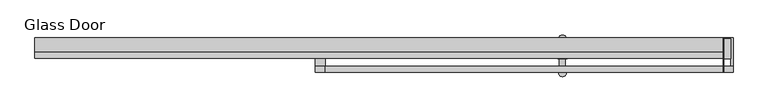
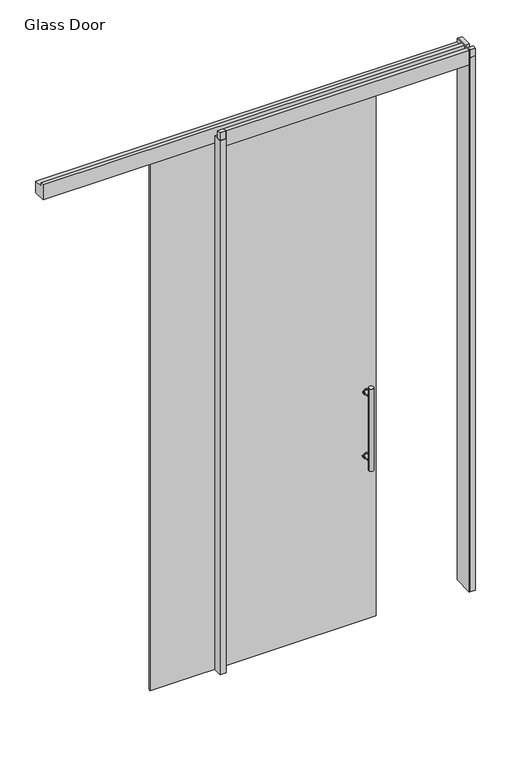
"""IFC4 building model written with IfcOpenShell, lengths in millimetres: plate geometry, Steelcase - Privacy Wall GS - Lite Scale Glazing - Door - Slider - All Glass : Glass Door."""

import ifcopenshell
import ifcopenshell.guid

model = None  # the IFC model being written
_history = None  # IfcOwnerHistory: only IFC2X3 demands one
_inside = {}  # id of a spatial element -> (the spatial element, [elements in it])
_under = {}  # id of a project, library or spatial element -> (it, [spatial elements below it])
_declared = {}  # id of a project -> (the project, [libraries it declares])
_typed = {}  # id of a type object -> (the type object, [elements of that type])
_made_of = {}  # id of a material, layer set ... -> (it, [elements and type objects made of it])


def new_model(schema):
    """Start an empty IFC model of exactly this schema.

    Asked for "IFC4X3", IfcOpenShell would pick the latest addendum, in which some entities
    have other attributes; the version numbers below select the first issue.
    IFC2X3 requires an IfcOwnerHistory on every rooted entity: one is made here for all.
    """
    global model, _history
    if schema == "IFC4X3":
        model = ifcopenshell.file(schema_version=(4, 3, 0, 0))
    else:
        model = ifcopenshell.file(schema=schema)
    _inside.clear()
    _under.clear()
    _declared.clear()
    _typed.clear()
    _made_of.clear()
    _history = None
    if model.schema == "IFC2X3":
        org = make("IfcOrganization", Name="unknown")
        user = make(
            "IfcPersonAndOrganization",
            ThePerson=make("IfcPerson", FamilyName="unknown"),
            TheOrganization=org,
        )
        app = make(
            "IfcApplication",
            ApplicationDeveloper=org,
            Version="unknown",
            ApplicationFullName="unknown",
            ApplicationIdentifier="unknown",
        )
        _history = make(
            "IfcOwnerHistory",
            OwningUser=user,
            OwningApplication=app,
            ChangeAction="ADDED",
            CreationDate=0,
        )
    return model


def make(cls, **values):
    """One entity of the class cls with the attributes given. An attribute that is None is left unset."""
    return model.create_entity(
        cls, **{name: value for name, value in values.items() if value is not None}
    )


def rooted(cls, **values):
    """An entity with a GlobalId (a new one), such as an element, a storey or a relation."""
    return make(cls, GlobalId=ifcopenshell.guid.new(), OwnerHistory=_history, **values)


def si_unit(unit_type, name, prefix=None):
    """IfcSIUnit, for example si_unit("LENGTHUNIT", "METRE", prefix="MILLI")."""
    return make("IfcSIUnit", UnitType=unit_type, Prefix=prefix, Name=name)


def assignment(units):
    """IfcUnitAssignment: the units of a project."""
    return None if units is None else make("IfcUnitAssignment", Units=units)


def point(xyz):
    """IfcCartesianPoint."""
    return None if xyz is None else make("IfcCartesianPoint", Coordinates=xyz)


def direction(xyz):
    """IfcDirection."""
    return None if xyz is None else make("IfcDirection", DirectionRatios=xyz)


def frame(location, z_axis=None, x_axis=None):
    """IfcAxis2Placement3D, a coordinate frame: its origin and axes. An axis left out is left unset."""
    return make(
        "IfcAxis2Placement3D",
        Location=point(location),
        Axis=direction(z_axis),
        RefDirection=direction(x_axis),
    )


def frame_2d(location, x_axis=None):
    """IfcAxis2Placement2D, a coordinate frame in the plane: its origin and x axis."""
    return make(
        "IfcAxis2Placement2D", Location=point(location), RefDirection=direction(x_axis)
    )


def origin():
    """The frame at (0, 0, 0) with its axes left unset."""
    return frame((0.0, 0.0, 0.0))


def origin_with_axes():
    """The frame at (0, 0, 0) with the z axis (0, 0, 1) and the x axis (1, 0, 0) written out."""
    return frame((0.0, 0.0, 0.0), z_axis=(0.0, 0.0, 1.0), x_axis=(1.0, 0.0, 0.0))


def place(relative_to, where):
    """IfcLocalPlacement: puts the frame where relative to a parent placement (None: the world)."""
    return make(
        "IfcLocalPlacement", PlacementRelTo=relative_to, RelativePlacement=where
    )


def context(
    kind, dimensions, precision=None, world=None, true_north=None, identifier=None
):
    """IfcGeometricRepresentationContext, for example the 3D "Model" context."""
    return make(
        "IfcGeometricRepresentationContext",
        ContextIdentifier=identifier,
        ContextType=kind,
        CoordinateSpaceDimension=dimensions,
        Precision=precision,
        WorldCoordinateSystem=world,
        TrueNorth=true_north,
    )


def project(units=None, contexts=None):
    """IfcProject with its units and contexts."""
    return rooted(
        "IfcProject",
        Name="project",
        RepresentationContexts=contexts,
        UnitsInContext=assignment(units),
    )


def spatial(cls, under=None, at=None, **own):
    """A site, building, storey or space (cls), placed at a placement, below another one or the project."""
    s = rooted(cls, ObjectPlacement=at, **own)
    if under is not None:
        _under.setdefault(under.id(), (under, []))[1].append(s)
    return s


def polyline(points):
    """IfcPolyline through the points."""
    return make("IfcPolyline", Points=[point(p) for p in points])


def circle_curve(where, radius):
    """IfcCircle in the frame where."""
    return make("IfcCircle", Position=where, Radius=radius)


def trimmed(basis, trim1, trim2, sense, master):
    """IfcTrimmedCurve: the piece of a basis curve between two trims."""
    return make(
        "IfcTrimmedCurve",
        BasisCurve=basis,
        Trim1=trim1,
        Trim2=trim2,
        SenseAgreement=sense,
        MasterRepresentation=master,
    )


def segment(curve, same_sense, transition):
    """IfcCompositeCurveSegment."""
    return make(
        "IfcCompositeCurveSegment",
        Transition=transition,
        SameSense=same_sense,
        ParentCurve=curve,
    )


def composite_curve(segments, self_intersect=None):
    """IfcCompositeCurve: segments joined end to end."""
    return make("IfcCompositeCurve", Segments=segments, SelfIntersect=self_intersect)


def outline(outer, holes=None, kind="AREA"):
    """IfcArbitraryClosedProfileDef: a profile drawn as a closed curve; with holes, ...WithVoids."""
    if holes is None:
        return make("IfcArbitraryClosedProfileDef", ProfileType=kind, OuterCurve=outer)
    return make(
        "IfcArbitraryProfileDefWithVoids",
        ProfileType=kind,
        OuterCurve=outer,
        InnerCurves=holes,
    )


def extrude(swept, where, along, depth):
    """IfcExtrudedAreaSolid: the profile swept, set in the frame where, extruded along a direction by depth."""
    return make(
        "IfcExtrudedAreaSolid",
        SweptArea=swept,
        Position=where,
        ExtrudedDirection=direction(along),
        Depth=depth,
    )


def shape(context_of_items, identifier, shape_type, items):
    """IfcShapeRepresentation: the items that make up one representation, for example the "Body"."""
    return make(
        "IfcShapeRepresentation",
        ContextOfItems=context_of_items,
        RepresentationIdentifier=identifier,
        RepresentationType=shape_type,
        Items=items,
    )


def source(mapping_origin, context_of_items, identifier, shape_type, items):
    """IfcRepresentationMap: a shape defined once, which mapped items show again and again."""
    return make(
        "IfcRepresentationMap",
        MappingOrigin=mapping_origin,
        MappedRepresentation=shape(context_of_items, identifier, shape_type, items),
    )


def transform(
    local_origin,
    x_axis=None,
    y_axis=None,
    z_axis=None,
    scale=None,
    scale2=None,
    scale3=None,
    uniform=True,
):
    """IfcCartesianTransformationOperator3D, or its non-uniform kind. x_axis, y_axis, z_axis: its Axis1, 2, 3."""
    if uniform:
        return make(
            "IfcCartesianTransformationOperator3D",
            Axis1=direction(x_axis),
            Axis2=direction(y_axis),
            LocalOrigin=point(local_origin),
            Scale=scale,
            Axis3=direction(z_axis),
        )
    return make(
        "IfcCartesianTransformationOperator3DnonUniform",
        Axis1=direction(x_axis),
        Axis2=direction(y_axis),
        LocalOrigin=point(local_origin),
        Scale=scale,
        Axis3=direction(z_axis),
        Scale2=scale2,
        Scale3=scale3,
    )


def mapped(mapping_source, mapping_target):
    """IfcMappedItem: shows the shape of a source again, moved by a transform."""
    return make(
        "IfcMappedItem", MappingSource=mapping_source, MappingTarget=mapping_target
    )


def made_of(thing, what):
    """Note that an element or type object is made of a material, layer set ...; save() writes the relation."""
    if what is not None:
        _made_of.setdefault(what.id(), (what, []))[1].append(thing)
    return thing


def element(
    cls,
    number,
    at=None,
    inside=None,
    cuts=None,
    type_object=None,
    material=None,
    context=None,
    identifier="Body",
    shape_type=None,
    held_by="IfcProductDefinitionShape",
    body=None,
    shapes=None,
    **own,
):
    """One element of the class cls, such as IfcWall. Its Tag is "e" and its number.

    at: its placement. inside: the storey or other place that contains it. cuts: it is an
    opening in that element (IfcRelVoidsElement). A single representation is given by context,
    identifier, shape_type and body (its items); several are given by shapes. held_by: the class
    of the entity that holds the representations. save() writes the other relations.
    """
    e = rooted(cls, Tag="e%d" % number, ObjectPlacement=at, **own)
    if body is not None:
        shapes = [shape(context, identifier, shape_type, body)]
    if shapes is not None:
        e.Representation = make(held_by, Representations=shapes)
    if inside is not None:
        _inside.setdefault(inside.id(), (inside, []))[1].append(e)
    if cuts is not None:
        rooted(
            "IfcRelVoidsElement", RelatingBuildingElement=cuts, RelatedOpeningElement=e
        )
    if type_object is not None:
        _typed.setdefault(type_object.id(), (type_object, []))[1].append(e)
    return made_of(e, material)


def aggregate(whole, parts):
    """IfcRelAggregates: a whole, such as a stair, and the parts it consists of."""
    return rooted("IfcRelAggregates", RelatingObject=whole, RelatedObjects=parts)


def save(model, path):
    """Write the relations noted so far, then the file.

    IfcRelAggregates (storeys below a building ...), IfcRelContainedInSpatialStructure (elements
    in a storey), IfcRelDefinesByType, IfcRelAssociatesMaterial and IfcRelDeclares: one each for
    every whole, place, type object, material and project.
    """
    for whole, parts in _under.values():
        aggregate(whole, parts)
    for where, things in _inside.values():
        rooted(
            "IfcRelContainedInSpatialStructure",
            RelatedElements=things,
            RelatingStructure=where,
        )
    for kind, things in _typed.values():
        rooted("IfcRelDefinesByType", RelatedObjects=things, RelatingType=kind)
    for what, things in _made_of.values():
        rooted("IfcRelAssociatesMaterial", RelatedObjects=things, RelatingMaterial=what)
    for by, libraries in _declared.values():
        rooted("IfcRelDeclares", RelatingContext=by, RelatedDefinitions=libraries)
    model.write(path)


def glass_door_0c262cc2(model_context):
    return source(origin(), model_context, "Body", "SweptSolid", [
        extrude(outline(composite_curve([segment(trimmed(circle_curve(frame_2d((1267.7758628, 122.9502762)), 15.5007671), [point((1267.7758628, 107.449509))], [point((1267.7758628, 138.4510433))], False, "CARTESIAN"), True, "CONTINUOUS"), segment(trimmed(circle_curve(frame_2d((1267.7758628, 122.9502762)), 15.5007671), [point((1267.7758628, 138.4510433))], [point((1267.7758628, 107.449509))], False, "CARTESIAN"), True, "CONTINUOUS")], self_intersect=False)), frame((0.0, 11.6587122, 0.0), z_axis=(0.0, 1.0, 0.0), x_axis=(0.0, 0.0, 1.0)), (0.0, 0.0, 1.0), 3.556),
        extrude(outline(composite_curve([segment(trimmed(circle_curve(frame_2d((912.5206255, 122.9502762)), 15.5007671), [point((912.5206255, 107.449509))], [point((912.5206255, 138.4510433))], False, "CARTESIAN"), True, "CONTINUOUS"), segment(trimmed(circle_curve(frame_2d((912.5206255, 122.9502762)), 15.5007671), [point((912.5206255, 138.4510433))], [point((912.5206255, 107.449509))], False, "CARTESIAN"), True, "CONTINUOUS")], self_intersect=False)), frame((0.0, 11.6587122, 0.0), z_axis=(0.0, 1.0, 0.0), x_axis=(0.0, 0.0, 1.0)), (0.0, 0.0, 1.0), 3.556),
        extrude(outline(composite_curve([segment(trimmed(circle_curve(frame_2d((912.5206255, 122.9502762)), 9.4326721), [point((912.5206255, 113.5176041))], [point((912.5206255, 132.3829482))], False, "CARTESIAN"), True, "CONTINUOUS"), segment(trimmed(circle_curve(frame_2d((912.5206255, 122.9502762)), 9.4326721), [point((912.5206255, 132.3829482))], [point((912.5206255, 113.5176041))], False, "CARTESIAN"), True, "CONTINUOUS")], self_intersect=False)), frame((0.0, -32.7444259, 0.0), z_axis=(0.0, 1.0, 0.0), x_axis=(0.0, 0.0, 1.0)), (0.0, 0.0, 1.0), 44.4031381),
        extrude(outline(composite_curve([segment(trimmed(circle_curve(frame_2d((1267.7758628, 122.9502762)), 9.4326721), [point((1267.7758628, 113.5176041))], [point((1267.7758628, 132.3829482))], False, "CARTESIAN"), True, "CONTINUOUS"), segment(trimmed(circle_curve(frame_2d((1267.7758628, 122.9502762)), 9.4326721), [point((1267.7758628, 132.3829482))], [point((1267.7758628, 113.5176041))], False, "CARTESIAN"), True, "CONTINUOUS")], self_intersect=False)), frame((0.0, -32.7444259, 0.0), z_axis=(0.0, 1.0, 0.0), x_axis=(0.0, 0.0, 1.0)), (0.0, 0.0, 1.0), 44.4031381),
        extrude(outline(composite_curve([segment(trimmed(circle_curve(frame_2d((122.9502762, -32.7444259)), 12.7), [point((110.2502762, -32.7444259))], [point((135.6502762, -32.7444259))], False, "CARTESIAN"), True, "CONTINUOUS"), segment(trimmed(circle_curve(frame_2d((122.9502762, -32.7444259)), 12.7), [point((135.6502762, -32.7444259))], [point((110.2502762, -32.7444259))], False, "CARTESIAN"), True, "CONTINUOUS")], self_intersect=False)), frame((0.0, 0.0, 861.5482441), z_axis=(0.0, 0.0, 1.0), x_axis=(1.0, 0.0, 0.0)), (0.0, 0.0, 1.0), 457.2),
        extrude(outline(composite_curve([segment(trimmed(circle_curve(frame_2d((1267.7758628, 122.9502762)), 15.5007671), [point((1267.7758628, 107.449509))], [point((1267.7758628, 138.4510433))], False, "CARTESIAN"), True, "CONTINUOUS"), segment(trimmed(circle_curve(frame_2d((1267.7758628, 122.9502762)), 15.5007671), [point((1267.7758628, 138.4510433))], [point((1267.7758628, 107.449509))], False, "CARTESIAN"), True, "CONTINUOUS")], self_intersect=False)), frame((0.0, 27.9147122, 0.0), z_axis=(0.0, 1.0, 0.0), x_axis=(0.0, 0.0, 1.0)), (0.0, 0.0, 1.0), 3.556),
        extrude(outline(composite_curve([segment(trimmed(circle_curve(frame_2d((912.5206255, 122.9502762)), 15.5007671), [point((912.5206255, 107.449509))], [point((912.5206255, 138.4510433))], False, "CARTESIAN"), True, "CONTINUOUS"), segment(trimmed(circle_curve(frame_2d((912.5206255, 122.9502762)), 15.5007671), [point((912.5206255, 138.4510433))], [point((912.5206255, 107.449509))], False, "CARTESIAN"), True, "CONTINUOUS")], self_intersect=False)), frame((0.0, 27.9147122, 0.0), z_axis=(0.0, 1.0, 0.0), x_axis=(0.0, 0.0, 1.0)), (0.0, 0.0, 1.0), 3.556),
        extrude(outline(composite_curve([segment(trimmed(circle_curve(frame_2d((912.5206255, 122.9502762)), 9.4326721), [point((912.5206255, 113.5176041))], [point((912.5206255, 132.3829482))], False, "CARTESIAN"), True, "CONTINUOUS"), segment(trimmed(circle_curve(frame_2d((912.5206255, 122.9502762)), 9.4326721), [point((912.5206255, 132.3829482))], [point((912.5206255, 113.5176041))], False, "CARTESIAN"), True, "CONTINUOUS")], self_intersect=False)), frame((0.0, 31.4707122, 0.0), z_axis=(0.0, 1.0, 0.0), x_axis=(0.0, 0.0, 1.0)), (0.0, 0.0, 1.0), 44.4031381),
        extrude(outline(composite_curve([segment(trimmed(circle_curve(frame_2d((1267.7758628, 122.9502762)), 9.4326721), [point((1267.7758628, 113.5176041))], [point((1267.7758628, 132.3829482))], False, "CARTESIAN"), True, "CONTINUOUS"), segment(trimmed(circle_curve(frame_2d((1267.7758628, 122.9502762)), 9.4326721), [point((1267.7758628, 132.3829482))], [point((1267.7758628, 113.5176041))], False, "CARTESIAN"), True, "CONTINUOUS")], self_intersect=False)), frame((0.0, 31.4707122, 0.0), z_axis=(0.0, 1.0, 0.0), x_axis=(0.0, 0.0, 1.0)), (0.0, 0.0, 1.0), 44.4031381),
        extrude(outline(composite_curve([segment(trimmed(circle_curve(frame_2d((122.9502762, 75.8738503)), 12.7), [point((110.2502762, 75.8738503))], [point((135.6502762, 75.8738503))], False, "CARTESIAN"), True, "CONTINUOUS"), segment(trimmed(circle_curve(frame_2d((122.9502762, 75.8738503)), 12.7), [point((135.6502762, 75.8738503))], [point((110.2502762, 75.8738503))], False, "CARTESIAN"), True, "CONTINUOUS")], self_intersect=False)), frame((0.0, 0.0, 861.5482441), z_axis=(0.0, 0.0, 1.0), x_axis=(1.0, 0.0, 0.0)), (0.0, 0.0, 1.0), 457.2),
        extrude(outline(polyline([(640.86102, -32.4102878), (640.86102, 78.5748921), (642.89302, 78.5748921), (642.89302, -32.4102878), (640.86102, -32.4102878)])), origin_with_axes(), (0.0, 0.0, 1.0), 3014.1182131),
        extrude(outline(polyline([(642.89302, -31.9657855), (642.89302, -11.7473709), (673.1, -11.7473709), (673.1, -31.9657855), (642.89302, -31.9657855)])), frame((0.0, 0.0, 2970.784), z_axis=(0.0, 0.0, 1.0), x_axis=(1.0, 0.0, 0.0)), (0.0, 0.0, 1.0), 43.3342131),
        extrude(outline(polyline([(665.3529999, 11.7476378), (642.89302, 11.7476378), (642.89302, 76.5428917), (665.3529999, 76.5428917), (665.3529999, 11.7476378)])), frame((0.0, 0.0, 2970.784), z_axis=(0.0, 0.0, 1.0), x_axis=(1.0, 0.0, 0.0)), (0.0, 0.0, 1.0), 43.3342131),
        extrude(outline(polyline([(673.1, -32.4102878), (642.89302, -32.4102878), (642.89302, -30.3782748), (665.3529999, -30.3782748), (665.3529999, 76.5428917), (642.89302, 76.5428917), (642.89302, 78.5748921), (673.1, 78.5748921), (673.1, -32.4102878)])), origin_with_axes(), (0.0, 0.0, 1.0), 2970.784),
        extrude(outline(polyline([(-673.1, -32.4102878), (-673.1, 12.394152), (-640.86102, 12.394152), (-640.86102, -32.4102878), (-673.1, -32.4102878)])), origin_with_axes(), (0.0, 0.0, 1.0), 2970.784),
        extrude(outline(polyline([(640.86102, -31.9657855), (-640.86102, -31.9657855), (-640.86102, -11.7473709), (640.86102, -11.7473709), (640.86102, -31.9657855)])), frame((0.0, 0.0, 2931.5682131), z_axis=(0.0, 0.0, 1.0), x_axis=(1.0, 0.0, 0.0)), (0.0, 0.0, 1.0), 82.55),
        extrude(outline(polyline([(-673.1, -31.9657855), (-673.1, -11.7473709), (-640.86102, -11.7473709), (-640.86102, -31.9657855), (-673.1, -31.9657855)])), frame((0.0, 0.0, 2970.784), z_axis=(0.0, 0.0, 1.0), x_axis=(1.0, 0.0, 0.0)), (0.0, 0.0, 1.0), 43.3342131),
        extrude(outline(polyline([(-825.3951926, 36.1536677), (-825.3951926, 27.9147122), (-876.52705, 27.9147122), (-876.52705, 36.1536677), (-825.3951926, 36.1536677)])), frame((0.0, 0.0, 2886.7099031), z_axis=(0.0, 0.0, 1.0), x_axis=(1.0, 0.0, 0.0)), (0.0, 0.0, 1.0), 44.85831),
        extrude(outline(polyline([(65.0127702, 36.1536677), (65.0127702, 27.9147122), (14.2128187, 27.9147122), (14.2128187, 36.1536677), (65.0127702, 36.1536677)])), frame((0.0, 0.0, 2886.7099031), z_axis=(0.0, 0.0, 1.0), x_axis=(1.0, 0.0, 0.0)), (0.0, 0.0, 1.0), 44.85831),
        extrude(outline(polyline([(32.9183918, 3014.1182131), (32.9183918, 2993.2122202), (78.5748921, 2993.2122202), (78.5748921, 2931.5682131), (12.7000057, 2931.5682131), (12.7000057, 3014.1182131), (32.9183918, 3014.1182131)])), frame((-1577.4891575, 0.0, 0.0), z_axis=(1.0, 0.0, 0.0), x_axis=(0.0, 1.0, 0.0)), (0.0, 0.0, 1.0), 2218.3501775),
        extrude(outline(polyline([(176.8490762, 27.9147122), (176.8490762, 17.7868078), (-1011.780391, 17.7868078), (-1011.780391, 27.9147122), (176.8490762, 27.9147122)])), origin_with_axes(), (0.0, 0.0, 1.0), 2931.5682131),
    ])


if __name__ == "__main__":
    model = new_model("IFC4")
    model_context = context("Model", 3, world=origin())
    ifc_project = project(units=[si_unit("LENGTHUNIT", "METRE", prefix="MILLI")], contexts=[model_context])
    site = spatial("IfcSite", under=ifc_project)
    building = spatial("IfcBuilding", under=site)
    placement = place(None, origin())
    glass_door_shape = glass_door_0c262cc2(model_context)
    element("IfcPlate", 1, ObjectType="Steelcase - Privacy Wall GS - Lite Scale Glazing - Door - Slider - All Glass : Glass Door", at=placement, inside=building, context=model_context, shape_type="MappedRepresentation", body=[
        mapped(glass_door_shape, transform((0.0, 0.0, 0.0), x_axis=(1.0, 0.0, 0.0), y_axis=(0.0, 1.0, 0.0), z_axis=(0.0, 0.0, 1.0))),
    ])
    save(model, "model.ifc")
